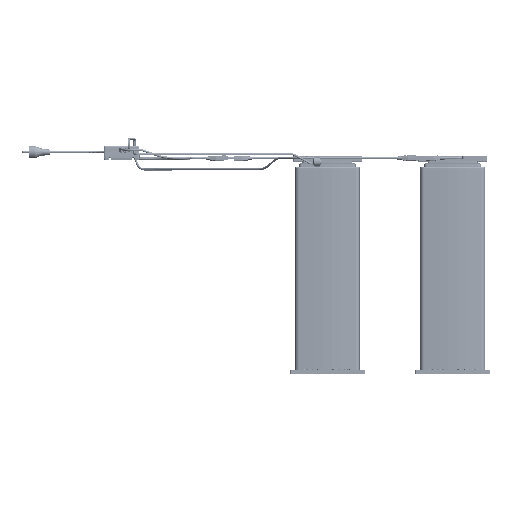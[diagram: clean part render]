
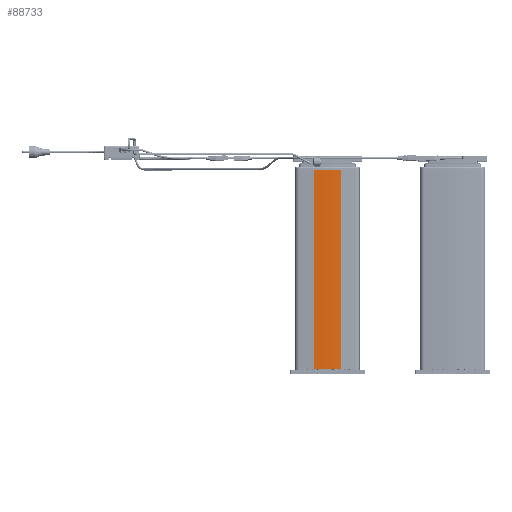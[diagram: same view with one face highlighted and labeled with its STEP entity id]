
A CAD part, top view. The second image highlights one B-rep face of the part: STEP entity #88733.
In plain terms, the highlighted cylindrical face has radius 523 mm (diameter 1046 mm), a partial arc.
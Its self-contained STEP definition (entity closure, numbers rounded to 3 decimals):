
#84737=CARTESIAN_POINT('',(453.,0.,-310.5));
#84738=DIRECTION('',(0.,0.,1.));
#84739=DIRECTION('',(-0.998,0.07,0.));
#84740=AXIS2_PLACEMENT_3D('',#84737,#84738,#84739);
#84767=DIRECTION('',(0.,0.,1.));
#84768=VECTOR('',#84767,532.);
#84769=CARTESIAN_POINT('',(-68.726,-36.483,-310.5));
#84770=LINE('',#84769,#84768);
#84771=DIRECTION('',(0.,0.,1.));
#84772=VECTOR('',#84771,532.);
#84773=CARTESIAN_POINT('',(-68.726,36.483,-310.5));
#84774=LINE('',#84773,#84772);
#84837=CARTESIAN_POINT('',(453.,0.,221.5));
#84838=DIRECTION('',(0.,0.,1.));
#84839=DIRECTION('',(-0.998,0.07,0.));
#84840=AXIS2_PLACEMENT_3D('',#84837,#84838,#84839);
#85456=CARTESIAN_POINT('',(-68.726,36.483,-310.5));
#85457=VERTEX_POINT('',#85456);
#85458=CARTESIAN_POINT('',(-68.726,-36.483,-310.5));
#85459=VERTEX_POINT('',#85458);
#85552=CARTESIAN_POINT('',(-68.726,36.483,221.5));
#85553=VERTEX_POINT('',#85552);
#85554=CARTESIAN_POINT('',(-68.726,-36.483,221.5));
#85555=VERTEX_POINT('',#85554);
#88720=CARTESIAN_POINT('',(453.,0.,-310.5));
#88721=DIRECTION('',(0.,0.,1.));
#88722=DIRECTION('',(1.,0.,0.));
#88723=AXIS2_PLACEMENT_3D('',#88720,#88721,#88722);
#88724=CYLINDRICAL_SURFACE('',#88723,523.);
#88726=ORIENTED_EDGE('',*,*,#88725,.T.);
#88728=ORIENTED_EDGE('',*,*,#88727,.T.);
#88729=ORIENTED_EDGE('',*,*,#88711,.F.);
#88730=ORIENTED_EDGE('',*,*,#88619,.F.);
#88731=EDGE_LOOP('',(#88726,#88728,#88729,#88730));
#88732=FACE_OUTER_BOUND('',#88731,.F.);
#84741=CIRCLE('',#84740,523.);
#84841=CIRCLE('',#84840,523.);
#88619=EDGE_CURVE('',#85457,#85459,#84741,.T.);
#88711=EDGE_CURVE('',#85459,#85555,#84770,.T.);
#88725=EDGE_CURVE('',#85457,#85553,#84774,.T.);
#88727=EDGE_CURVE('',#85553,#85555,#84841,.T.);
#88733=ADVANCED_FACE('',(#88732),#88724,.T.);
